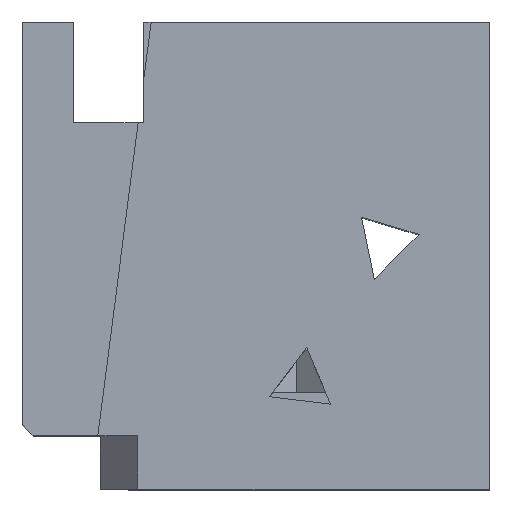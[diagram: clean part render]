
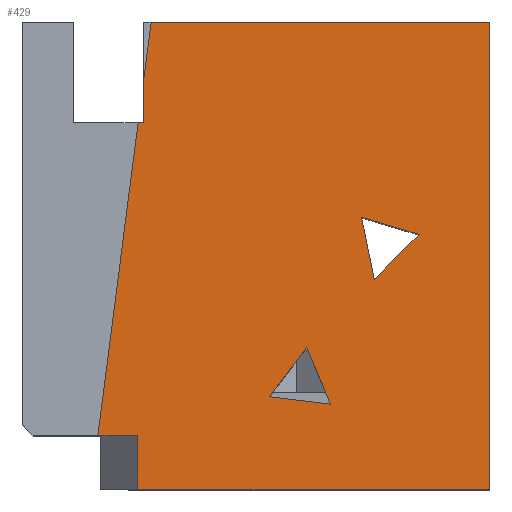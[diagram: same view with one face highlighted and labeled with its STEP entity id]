
A CAD part, top view. The second image highlights one B-rep face of the part: STEP entity #429.
In plain terms, the highlighted planar face has unit normal (0, 0, 1).
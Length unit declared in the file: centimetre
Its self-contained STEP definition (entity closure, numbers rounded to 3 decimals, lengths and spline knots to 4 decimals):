
#2 = ORIENTED_EDGE ( 'NONE', *, *, #1331, .F. ) ;
#3 = VERTEX_POINT ( 'NONE', #889 ) ;
#23 = CARTESIAN_POINT ( 'NONE',  ( 246.7989, 115.4284, 1000. ) ) ;
#62 = DIRECTION ( 'NONE',  ( -1., 0., 0. ) ) ;
#75 = ORIENTED_EDGE ( 'NONE', *, *, #700, .F. ) ;
#90 = CARTESIAN_POINT ( 'NONE',  ( 753.3212, 449.6468, 1000. ) ) ;
#108 = LINE ( 'NONE', #693, #1191 ) ;
#162 = CARTESIAN_POINT ( 'NONE',  ( 528.9105, 198.2308, 1000. ) ) ;
#163 = VERTEX_POINT ( 'NONE', #1430 ) ;
#164 = VERTEX_POINT ( 'NONE', #162 ) ;
#176 = CARTESIAN_POINT ( 'NONE',  ( 0., 115.4284, 1000. ) ) ;
#179 = DIRECTION ( 'NONE',  ( -1., 0., 0. ) ) ;
#196 = VERTEX_POINT ( 'NONE', #856 ) ;
#204 = LINE ( 'NONE', #776, #1091 ) ;
#219 = DIRECTION ( 'NONE',  ( 0., 0., 1. ) ) ;
#241 = LINE ( 'NONE', #1298, #546 ) ;
#265 = ORIENTED_EDGE ( 'NONE', *, *, #1039, .T. ) ;
#274 = DIRECTION ( 'NONE',  ( 1., 0., 0. ) ) ;
#282 = LINE ( 'NONE', #665, #1267 ) ;
#291 = EDGE_LOOP ( 'NONE', ( #1232, #1057, #265, #1151, #811, #566, #868, #1239, #75 ) ) ;
#323 = VERTEX_POINT ( 'NONE', #551 ) ;
#328 = LINE ( 'NONE', #563, #422 ) ;
#356 = VERTEX_POINT ( 'NONE', #416 ) ;
#404 = CARTESIAN_POINT ( 'NONE',  ( 258.6343, 868.1654, 1000. ) ) ;
#416 = CARTESIAN_POINT ( 'NONE',  ( 1000., 0., 1000. ) ) ;
#421 = VECTOR ( 'NONE', #274, 100. ) ;
#422 = VECTOR ( 'NONE', #691, 100. ) ;
#429 = ADVANCED_FACE ( 'NONE', ( #662, #1284, #1046 ), #1528, .T. ) ;
#436 = EDGE_CURVE ( 'NONE', #323, #740, #328, .T. ) ;
#461 = CARTESIAN_POINT ( 'NONE',  ( 849.0262, 545.3518, 1000. ) ) ;
#466 = DIRECTION ( 'NONE',  ( 0., 1., 0. ) ) ;
#473 = VECTOR ( 'NONE', #1460, 100. ) ;
#475 = LINE ( 'NONE', #23, #677 ) ;
#499 = DIRECTION ( 'NONE',  ( 0.203, -0.979, 0. ) ) ;
#506 = LINE ( 'NONE', #981, #473 ) ;
#515 = LINE ( 'NONE', #1010, #1071 ) ;
#530 = LINE ( 'NONE', #1352, #1419 ) ;
#535 = EDGE_CURVE ( 'NONE', #759, #3, #108, .T. ) ;
#546 = VECTOR ( 'NONE', #466, 100. ) ;
#551 = CARTESIAN_POINT ( 'NONE',  ( 161.5192, 115.4284, 1000. ) ) ;
#557 = DIRECTION ( 'NONE',  ( 1., 0., 0. ) ) ;
#563 = CARTESIAN_POINT ( 'NONE',  ( 275.643, 1000., 1000. ) ) ;
#566 = ORIENTED_EDGE ( 'NONE', *, *, #664, .T. ) ;
#571 = CARTESIAN_POINT ( 'NONE',  ( 0., 0., 1000. ) ) ;
#590 = EDGE_LOOP ( 'NONE', ( #962, #618, #2 ) ) ;
#618 = ORIENTED_EDGE ( 'NONE', *, *, #1116, .F. ) ;
#635 = VERTEX_POINT ( 'NONE', #1401 ) ;
#651 = ORIENTED_EDGE ( 'NONE', *, *, #761, .F. ) ;
#657 = LINE ( 'NONE', #1492, #848 ) ;
#662 = FACE_BOUND ( 'NONE', #1056, .T. ) ;
#664 = EDGE_CURVE ( 'NONE', #1387, #3, #530, .T. ) ;
#665 = CARTESIAN_POINT ( 'NONE',  ( 109.1472, 784.4178, 1000. ) ) ;
#677 = VECTOR ( 'NONE', #1318, 100. ) ;
#691 = DIRECTION ( 'NONE',  ( 0.128, 0.992, 0. ) ) ;
#693 = CARTESIAN_POINT ( 'NONE',  ( 275.643, 1000., 1000. ) ) ;
#700 = EDGE_CURVE ( 'NONE', #740, #941, #282, .T. ) ;
#702 = VERTEX_POINT ( 'NONE', #780 ) ;
#740 = VERTEX_POINT ( 'NONE', #1248 ) ;
#759 = VERTEX_POINT ( 'NONE', #404 ) ;
#761 = EDGE_CURVE ( 'NONE', #164, #196, #657, .T. ) ;
#765 = DIRECTION ( 'NONE',  ( 0.992, -0.123, 0. ) ) ;
#772 = AXIS2_PLACEMENT_3D ( 'NONE', #571, #219, #557 ) ;
#776 = CARTESIAN_POINT ( 'NONE',  ( 258.6343, 784.4178, 1000. ) ) ;
#780 = CARTESIAN_POINT ( 'NONE',  ( 608.4301, 303.5637, 1000. ) ) ;
#783 = DIRECTION ( 'NONE',  ( 0.707, 0.707, 0. ) ) ;
#809 = DIRECTION ( 'NONE',  ( -0.603, -0.798, 0. ) ) ;
#811 = ORIENTED_EDGE ( 'NONE', *, *, #1477, .T. ) ;
#848 = VECTOR ( 'NONE', #765, 100. ) ;
#852 = CARTESIAN_POINT ( 'NONE',  ( 725.8282, 582.402, 1000. ) ) ;
#856 = CARTESIAN_POINT ( 'NONE',  ( 659.8913, 182.0312, 1000. ) ) ;
#863 = CARTESIAN_POINT ( 'NONE',  ( 258.6343, 784.4178, 1000. ) ) ;
#868 = ORIENTED_EDGE ( 'NONE', *, *, #535, .F. ) ;
#889 = CARTESIAN_POINT ( 'NONE',  ( 275.643, 1000., 1000. ) ) ;
#917 = EDGE_CURVE ( 'NONE', #702, #164, #1514, .T. ) ;
#929 = VERTEX_POINT ( 'NONE', #1164 ) ;
#941 = VERTEX_POINT ( 'NONE', #863 ) ;
#962 = ORIENTED_EDGE ( 'NONE', *, *, #1108, .F. ) ;
#964 = LINE ( 'NONE', #852, #1122 ) ;
#981 = CARTESIAN_POINT ( 'NONE',  ( 849.0262, 545.3518, 1000. ) ) ;
#983 = LINE ( 'NONE', #1338, #421 ) ;
#1010 = CARTESIAN_POINT ( 'NONE',  ( 659.8913, 182.0312, 1000. ) ) ;
#1039 = EDGE_CURVE ( 'NONE', #635, #929, #475, .T. ) ;
#1046 = FACE_BOUND ( 'NONE', #590, .T. ) ;
#1051 = ORIENTED_EDGE ( 'NONE', *, *, #1147, .F. ) ;
#1056 = EDGE_LOOP ( 'NONE', ( #1051, #651, #1488 ) ) ;
#1057 = ORIENTED_EDGE ( 'NONE', *, *, #1252, .F. ) ;
#1066 = VECTOR ( 'NONE', #62, 100. ) ;
#1071 = VECTOR ( 'NONE', #1241, 100. ) ;
#1091 = VECTOR ( 'NONE', #1398, 100. ) ;
#1101 = LINE ( 'NONE', #176, #1066 ) ;
#1108 = EDGE_CURVE ( 'NONE', #1311, #163, #964, .T. ) ;
#1116 = EDGE_CURVE ( 'NONE', #1458, #1311, #506, .T. ) ;
#1122 = VECTOR ( 'NONE', #499, 100. ) ;
#1135 = DIRECTION ( 'NONE',  ( 1., 0., 0. ) ) ;
#1138 = CARTESIAN_POINT ( 'NONE',  ( 1000., 1000., 1000. ) ) ;
#1147 = EDGE_CURVE ( 'NONE', #196, #702, #515, .T. ) ;
#1151 = ORIENTED_EDGE ( 'NONE', *, *, #1258, .T. ) ;
#1164 = CARTESIAN_POINT ( 'NONE',  ( 246.7989, 0., 1000. ) ) ;
#1191 = VECTOR ( 'NONE', #1524, 100. ) ;
#1232 = ORIENTED_EDGE ( 'NONE', *, *, #436, .F. ) ;
#1239 = ORIENTED_EDGE ( 'NONE', *, *, #1340, .F. ) ;
#1241 = DIRECTION ( 'NONE',  ( -0.39, 0.921, 0. ) ) ;
#1248 = CARTESIAN_POINT ( 'NONE',  ( 247.8295, 784.4178, 1000. ) ) ;
#1252 = EDGE_CURVE ( 'NONE', #635, #323, #1101, .T. ) ;
#1258 = EDGE_CURVE ( 'NONE', #929, #356, #983, .T. ) ;
#1267 = VECTOR ( 'NONE', #1135, 100. ) ;
#1271 = VECTOR ( 'NONE', #809, 100. ) ;
#1284 = FACE_OUTER_BOUND ( 'NONE', #291, .T. ) ;
#1298 = CARTESIAN_POINT ( 'NONE',  ( 1000., 1000., 1000. ) ) ;
#1311 = VERTEX_POINT ( 'NONE', #1406 ) ;
#1318 = DIRECTION ( 'NONE',  ( 0., -1., 0. ) ) ;
#1320 = VECTOR ( 'NONE', #783, 100. ) ;
#1331 = EDGE_CURVE ( 'NONE', #163, #1458, #1496, .T. ) ;
#1338 = CARTESIAN_POINT ( 'NONE',  ( 0., 0., 1000. ) ) ;
#1340 = EDGE_CURVE ( 'NONE', #941, #759, #204, .T. ) ;
#1352 = CARTESIAN_POINT ( 'NONE',  ( 0., 1000., 1000. ) ) ;
#1387 = VERTEX_POINT ( 'NONE', #1138 ) ;
#1398 = DIRECTION ( 'NONE',  ( 0., 1., 0. ) ) ;
#1401 = CARTESIAN_POINT ( 'NONE',  ( 246.7989, 115.4284, 1000. ) ) ;
#1406 = CARTESIAN_POINT ( 'NONE',  ( 725.8282, 582.402, 1000. ) ) ;
#1419 = VECTOR ( 'NONE', #179, 100. ) ;
#1430 = CARTESIAN_POINT ( 'NONE',  ( 753.3212, 449.6468, 1000. ) ) ;
#1458 = VERTEX_POINT ( 'NONE', #461 ) ;
#1460 = DIRECTION ( 'NONE',  ( -0.958, 0.288, 0. ) ) ;
#1477 = EDGE_CURVE ( 'NONE', #356, #1387, #241, .T. ) ;
#1488 = ORIENTED_EDGE ( 'NONE', *, *, #917, .F. ) ;
#1492 = CARTESIAN_POINT ( 'NONE',  ( 528.9105, 198.2308, 1000. ) ) ;
#1496 = LINE ( 'NONE', #90, #1320 ) ;
#1514 = LINE ( 'NONE', #1523, #1271 ) ;
#1523 = CARTESIAN_POINT ( 'NONE',  ( 608.4301, 303.5637, 1000. ) ) ;
#1524 = DIRECTION ( 'NONE',  ( 0.128, 0.992, 0. ) ) ;
#1528 = PLANE ( 'NONE',  #772 ) ;
